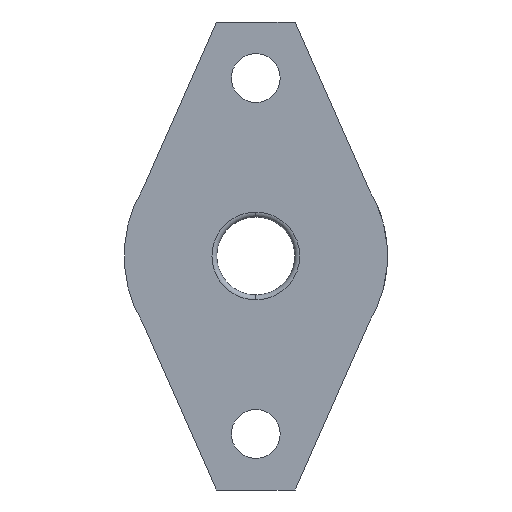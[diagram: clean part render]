
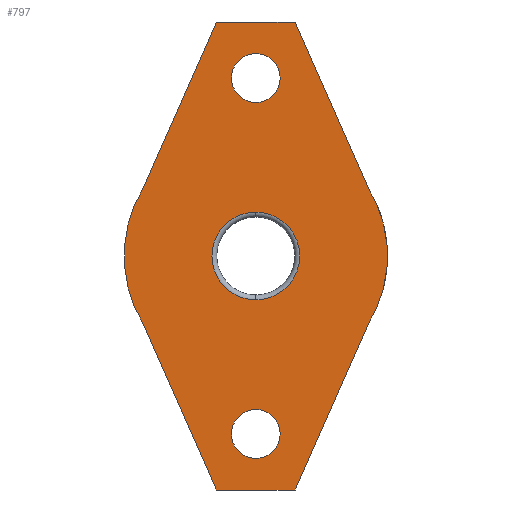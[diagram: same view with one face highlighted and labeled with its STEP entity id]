
A CAD part, front view. The second image highlights one B-rep face of the part: STEP entity #797.
In plain terms, the highlighted planar face has unit normal (0, -1, 0).
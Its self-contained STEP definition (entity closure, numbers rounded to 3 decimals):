
#134 = CARTESIAN_POINT ( 'NONE',  ( 11.485, 0., -7.095 ) ) ;
#164 = EDGE_CURVE ( 'NONE', #6559, #6569, #5096, .T. ) ;
#188 = EDGE_CURVE ( 'NONE', #6802, #6638, #5064, .T. ) ;
#252 = CARTESIAN_POINT ( 'NONE',  ( 0., 0., 15.75 ) ) ;
#262 = DIRECTION ( 'NONE',  ( 0., -1., 0. ) ) ;
#294 = CARTESIAN_POINT ( 'NONE',  ( 0., 0., -20.75 ) ) ;
#438 = EDGE_CURVE ( 'NONE', #1529, #463, #4793, .T. ) ;
#463 = VERTEX_POINT ( 'NONE', #134 ) ;
#511 = EDGE_CURVE ( 'NONE', #6638, #463, #4678, .T. ) ;
#571 = ORIENTED_EDGE ( 'NONE', *, *, #1893, .F. ) ;
#705 = DIRECTION ( 'NONE',  ( 0., 1., 0. ) ) ;
#795 = VERTEX_POINT ( 'NONE', #6600 ) ;
#797 = ADVANCED_FACE ( 'NONE', ( #4385, #4403, #4399, #4383 ), #1453, .F. ) ;
#912 = DIRECTION ( 'NONE',  ( 0., 1., 0. ) ) ;
#1103 = EDGE_CURVE ( 'NONE', #3554, #1529, #4030, .T. ) ;
#1165 = AXIS2_PLACEMENT_3D ( 'NONE', #4033, #705, #4816 ) ;
#1214 = CARTESIAN_POINT ( 'NONE',  ( 0., 0., 4.5 ) ) ;
#1244 = DIRECTION ( 'NONE',  ( 0., 1., 0. ) ) ;
#1324 = CARTESIAN_POINT ( 'NONE',  ( 0., 0., 0. ) ) ;
#1453 = PLANE ( 'NONE',  #2205 ) ;
#1499 = EDGE_CURVE ( 'NONE', #3554, #2062, #3641, .T. ) ;
#1513 = CARTESIAN_POINT ( 'NONE',  ( 4.038, 0., 24. ) ) ;
#1529 = VERTEX_POINT ( 'NONE', #7041 ) ;
#1614 = ORIENTED_EDGE ( 'NONE', *, *, #5060, .F. ) ;
#1695 = VERTEX_POINT ( 'NONE', #6601 ) ;
#1698 = CARTESIAN_POINT ( 'NONE',  ( 0., 0., -24. ) ) ;
#1719 = DIRECTION ( 'NONE',  ( 0.403, 0., -0.915 ) ) ;
#1745 = CARTESIAN_POINT ( 'NONE',  ( 12.236, 0., 5.391 ) ) ;
#1746 = CIRCLE ( 'NONE', #2214, 4.5 ) ;
#1867 = DIRECTION ( 'NONE',  ( 0., 0., 1. ) ) ;
#1893 = EDGE_CURVE ( 'NONE', #6496, #6517, #3665, .T. ) ;
#1910 = EDGE_CURVE ( 'NONE', #5335, #1695, #3541, .T. ) ;
#2003 = LINE ( 'NONE', #4361, #2019 ) ;
#2019 = VECTOR ( 'NONE', #5829, 1000. ) ;
#2062 = VERTEX_POINT ( 'NONE', #4746 ) ;
#2188 = CARTESIAN_POINT ( 'NONE',  ( 12.236, 0., -5.391 ) ) ;
#2205 = AXIS2_PLACEMENT_3D ( 'NONE', #3156, #7129, #3729 ) ;
#2214 = AXIS2_PLACEMENT_3D ( 'NONE', #4248, #912, #4813 ) ;
#2335 = ORIENTED_EDGE ( 'NONE', *, *, #438, .T. ) ;
#2341 = EDGE_LOOP ( 'NONE', ( #1614, #571 ) ) ;
#2387 = CIRCLE ( 'NONE', #7200, 2.5 ) ;
#2440 = DIRECTION ( 'NONE',  ( 0., 0., 1. ) ) ;
#2455 = CARTESIAN_POINT ( 'NONE',  ( 0., 0., 20.75 ) ) ;
#2587 = DIRECTION ( 'NONE',  ( -0.403, 0., -0.915 ) ) ;
#2715 = DIRECTION ( 'NONE',  ( 0.403, 0., 0.915 ) ) ;
#2792 = CIRCLE ( 'NONE', #1165, 2.5 ) ;
#2913 = ORIENTED_EDGE ( 'NONE', *, *, #1910, .T. ) ;
#2920 = VECTOR ( 'NONE', #2587, 1000. ) ;
#2922 = DIRECTION ( 'NONE',  ( 0., 1., 0. ) ) ;
#2949 = LINE ( 'NONE', #4856, #2920 ) ;
#2956 = EDGE_LOOP ( 'NONE', ( #6531, #6507 ) ) ;
#2968 = CARTESIAN_POINT ( 'NONE',  ( 0., 0., -18.25 ) ) ;
#3006 = CARTESIAN_POINT ( 'NONE',  ( 0., 0., -15.75 ) ) ;
#3051 = CIRCLE ( 'NONE', #3925, 13.5 ) ;
#3099 = DIRECTION ( 'NONE',  ( 0., -1., 0. ) ) ;
#3114 = CARTESIAN_POINT ( 'NONE',  ( 0., 0., 0. ) ) ;
#3154 = EDGE_CURVE ( 'NONE', #2062, #795, #3051, .T. ) ;
#3156 = CARTESIAN_POINT ( 'NONE',  ( 0., 0., 0. ) ) ;
#3465 = EDGE_CURVE ( 'NONE', #5436, #795, #2949, .T. ) ;
#3541 = CIRCLE ( 'NONE', #5211, 4.5 ) ;
#3546 = CARTESIAN_POINT ( 'NONE',  ( 0., 0., 18.25 ) ) ;
#3554 = VERTEX_POINT ( 'NONE', #6598 ) ;
#3581 = CARTESIAN_POINT ( 'NONE',  ( -12.236, 0., -5.391 ) ) ;
#3636 = VECTOR ( 'NONE', #7019, 1000. ) ;
#3641 = LINE ( 'NONE', #3581, #3636 ) ;
#3665 = CIRCLE ( 'NONE', #4824, 2.5 ) ;
#3696 = DIRECTION ( 'NONE',  ( 0., 0., 1. ) ) ;
#3729 = DIRECTION ( 'NONE',  ( 0., 0., 1. ) ) ;
#3764 = ORIENTED_EDGE ( 'NONE', *, *, #3465, .T. ) ;
#3925 = AXIS2_PLACEMENT_3D ( 'NONE', #4608, #1244, #5180 ) ;
#3989 = VECTOR ( 'NONE', #4530, 1000. ) ;
#4003 = EDGE_CURVE ( 'NONE', #6569, #6559, #2792, .T. ) ;
#4015 = AXIS2_PLACEMENT_3D ( 'NONE', #3114, #7095, #3696 ) ;
#4030 = LINE ( 'NONE', #1698, #3989 ) ;
#4033 = CARTESIAN_POINT ( 'NONE',  ( 0., 0., -18.25 ) ) ;
#4094 = ORIENTED_EDGE ( 'NONE', *, *, #511, .F. ) ;
#4134 = DIRECTION ( 'NONE',  ( 0., 0., 1. ) ) ;
#4248 = CARTESIAN_POINT ( 'NONE',  ( 0., 0., 0. ) ) ;
#4361 = CARTESIAN_POINT ( 'NONE',  ( 0., 0., 24. ) ) ;
#4383 = FACE_OUTER_BOUND ( 'NONE', #5020, .T. ) ;
#4385 = FACE_BOUND ( 'NONE', #5360, .T. ) ;
#4399 = FACE_BOUND ( 'NONE', #2956, .T. ) ;
#4403 = FACE_BOUND ( 'NONE', #2341, .T. ) ;
#4530 = DIRECTION ( 'NONE',  ( 1., 0., 0. ) ) ;
#4608 = CARTESIAN_POINT ( 'NONE',  ( 0., 0., 0. ) ) ;
#4678 = CIRCLE ( 'NONE', #4015, 13.5 ) ;
#4702 = ORIENTED_EDGE ( 'NONE', *, *, #1499, .F. ) ;
#4746 = CARTESIAN_POINT ( 'NONE',  ( -11.485, 0., -7.095 ) ) ;
#4793 = LINE ( 'NONE', #2188, #4825 ) ;
#4813 = DIRECTION ( 'NONE',  ( 0., 0., 1. ) ) ;
#4816 = DIRECTION ( 'NONE',  ( 0., 0., 1. ) ) ;
#4824 = AXIS2_PLACEMENT_3D ( 'NONE', #3546, #262, #4134 ) ;
#4825 = VECTOR ( 'NONE', #2715, 1000. ) ;
#4856 = CARTESIAN_POINT ( 'NONE',  ( -12.236, 0., 5.391 ) ) ;
#5020 = EDGE_LOOP ( 'NONE', ( #6111, #5590, #3764, #6430, #4702, #7239, #2335, #4094 ) ) ;
#5060 = EDGE_CURVE ( 'NONE', #6517, #6496, #2387, .T. ) ;
#5064 = LINE ( 'NONE', #1745, #5076 ) ;
#5076 = VECTOR ( 'NONE', #1719, 1000. ) ;
#5096 = CIRCLE ( 'NONE', #6200, 2.5 ) ;
#5180 = DIRECTION ( 'NONE',  ( 0., 0., 1. ) ) ;
#5211 = AXIS2_PLACEMENT_3D ( 'NONE', #1324, #5267, #1867 ) ;
#5267 = DIRECTION ( 'NONE',  ( 0., 1., 0. ) ) ;
#5331 = CARTESIAN_POINT ( 'NONE',  ( 11.485, 0., 7.095 ) ) ;
#5335 = VERTEX_POINT ( 'NONE', #1214 ) ;
#5360 = EDGE_LOOP ( 'NONE', ( #2913, #6701 ) ) ;
#5436 = VERTEX_POINT ( 'NONE', #6912 ) ;
#5590 = ORIENTED_EDGE ( 'NONE', *, *, #6139, .F. ) ;
#5829 = DIRECTION ( 'NONE',  ( 1., 0., 0. ) ) ;
#6111 = ORIENTED_EDGE ( 'NONE', *, *, #188, .F. ) ;
#6139 = EDGE_CURVE ( 'NONE', #5436, #6802, #2003, .T. ) ;
#6200 = AXIS2_PLACEMENT_3D ( 'NONE', #2968, #2922, #2440 ) ;
#6430 = ORIENTED_EDGE ( 'NONE', *, *, #3154, .F. ) ;
#6496 = VERTEX_POINT ( 'NONE', #2455 ) ;
#6507 = ORIENTED_EDGE ( 'NONE', *, *, #4003, .T. ) ;
#6517 = VERTEX_POINT ( 'NONE', #252 ) ;
#6518 = CARTESIAN_POINT ( 'NONE',  ( 0., 0., 18.25 ) ) ;
#6531 = ORIENTED_EDGE ( 'NONE', *, *, #164, .T. ) ;
#6559 = VERTEX_POINT ( 'NONE', #294 ) ;
#6569 = VERTEX_POINT ( 'NONE', #3006 ) ;
#6598 = CARTESIAN_POINT ( 'NONE',  ( -4.038, 0., -24. ) ) ;
#6600 = CARTESIAN_POINT ( 'NONE',  ( -11.485, 0., 7.095 ) ) ;
#6601 = CARTESIAN_POINT ( 'NONE',  ( 0., 0., -4.5 ) ) ;
#6638 = VERTEX_POINT ( 'NONE', #5331 ) ;
#6671 = EDGE_CURVE ( 'NONE', #1695, #5335, #1746, .T. ) ;
#6701 = ORIENTED_EDGE ( 'NONE', *, *, #6671, .T. ) ;
#6802 = VERTEX_POINT ( 'NONE', #1513 ) ;
#6912 = CARTESIAN_POINT ( 'NONE',  ( -4.038, 0., 24. ) ) ;
#7019 = DIRECTION ( 'NONE',  ( -0.403, 0., 0.915 ) ) ;
#7041 = CARTESIAN_POINT ( 'NONE',  ( 4.038, 0., -24. ) ) ;
#7084 = DIRECTION ( 'NONE',  ( 0., 0., 1. ) ) ;
#7095 = DIRECTION ( 'NONE',  ( 0., 1., 0. ) ) ;
#7129 = DIRECTION ( 'NONE',  ( 0., 1., 0. ) ) ;
#7200 = AXIS2_PLACEMENT_3D ( 'NONE', #6518, #3099, #7084 ) ;
#7239 = ORIENTED_EDGE ( 'NONE', *, *, #1103, .T. ) ;
